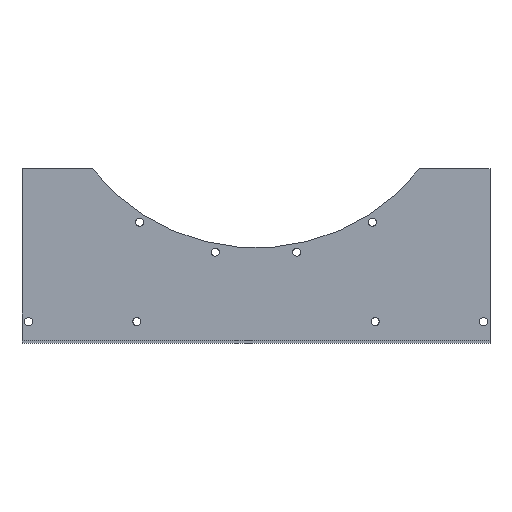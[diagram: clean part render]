
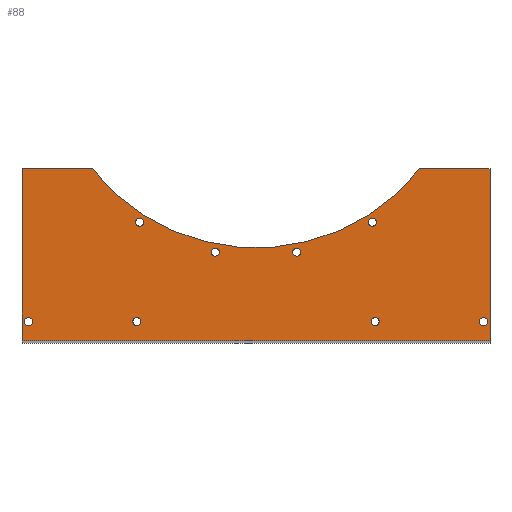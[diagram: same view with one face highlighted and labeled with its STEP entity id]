
A CAD part, top view. The second image highlights one B-rep face of the part: STEP entity #88.
In plain terms, the highlighted planar face has unit normal (0, 0, 1).
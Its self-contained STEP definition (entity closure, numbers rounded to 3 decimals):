
#88=ADVANCED_FACE('',(#184,#185,#186,#187,#188,#189,#190,#191,#192),#193,.T.);
#184=FACE_BOUND('',#285,.T.);
#185=FACE_BOUND('',#286,.T.);
#186=FACE_BOUND('',#287,.T.);
#187=FACE_BOUND('',#288,.T.);
#188=FACE_BOUND('',#289,.T.);
#189=FACE_BOUND('',#290,.T.);
#190=FACE_BOUND('',#291,.T.);
#191=FACE_BOUND('',#292,.T.);
#192=FACE_OUTER_BOUND('',#293,.T.);
#193=PLANE('',#294);
#285=EDGE_LOOP('',(#485,#486));
#286=EDGE_LOOP('',(#487,#488));
#287=EDGE_LOOP('',(#489,#490));
#288=EDGE_LOOP('',(#491,#492));
#289=EDGE_LOOP('',(#493,#494));
#290=EDGE_LOOP('',(#495,#496));
#291=EDGE_LOOP('',(#497,#498));
#292=EDGE_LOOP('',(#499,#500));
#293=EDGE_LOOP('',(#501,#502,#503,#504,#505,#506));
#294=AXIS2_PLACEMENT_3D('',#507,#508,#509);
#485=ORIENTED_EDGE('',*,*,#599,.T.);
#486=ORIENTED_EDGE('',*,*,#604,.T.);
#487=ORIENTED_EDGE('',*,*,#594,.T.);
#488=ORIENTED_EDGE('',*,*,#607,.T.);
#489=ORIENTED_EDGE('',*,*,#589,.T.);
#490=ORIENTED_EDGE('',*,*,#610,.T.);
#491=ORIENTED_EDGE('',*,*,#584,.T.);
#492=ORIENTED_EDGE('',*,*,#613,.T.);
#493=ORIENTED_EDGE('',*,*,#579,.T.);
#494=ORIENTED_EDGE('',*,*,#616,.T.);
#495=ORIENTED_EDGE('',*,*,#574,.T.);
#496=ORIENTED_EDGE('',*,*,#619,.T.);
#497=ORIENTED_EDGE('',*,*,#569,.T.);
#498=ORIENTED_EDGE('',*,*,#622,.T.);
#499=ORIENTED_EDGE('',*,*,#564,.T.);
#500=ORIENTED_EDGE('',*,*,#625,.T.);
#501=ORIENTED_EDGE('',*,*,#627,.T.);
#502=ORIENTED_EDGE('',*,*,#641,.F.);
#503=ORIENTED_EDGE('',*,*,#642,.F.);
#504=ORIENTED_EDGE('',*,*,#643,.F.);
#505=ORIENTED_EDGE('',*,*,#644,.F.);
#506=ORIENTED_EDGE('',*,*,#638,.F.);
#507=CARTESIAN_POINT('',(0.0,4.0,-26.0));
#508=DIRECTION('',(0.0,0.0,1.0));
#509=DIRECTION('',(1.0,0.0,0.0));
#564=EDGE_CURVE('',#664,#661,#665,.T.);
#569=EDGE_CURVE('',#673,#670,#674,.T.);
#574=EDGE_CURVE('',#682,#679,#683,.T.);
#579=EDGE_CURVE('',#691,#688,#692,.T.);
#584=EDGE_CURVE('',#700,#697,#701,.T.);
#589=EDGE_CURVE('',#709,#706,#710,.T.);
#594=EDGE_CURVE('',#718,#715,#719,.T.);
#599=EDGE_CURVE('',#727,#724,#728,.T.);
#604=EDGE_CURVE('',#724,#727,#734,.T.);
#607=EDGE_CURVE('',#715,#718,#737,.T.);
#610=EDGE_CURVE('',#706,#709,#740,.T.);
#613=EDGE_CURVE('',#697,#700,#743,.T.);
#616=EDGE_CURVE('',#688,#691,#746,.T.);
#619=EDGE_CURVE('',#679,#682,#749,.T.);
#622=EDGE_CURVE('',#670,#673,#752,.T.);
#625=EDGE_CURVE('',#661,#664,#755,.T.);
#627=EDGE_CURVE('',#757,#758,#759,.T.);
#638=EDGE_CURVE('',#757,#776,#777,.T.);
#641=EDGE_CURVE('',#780,#758,#781,.T.);
#642=EDGE_CURVE('',#782,#780,#783,.T.);
#643=EDGE_CURVE('',#784,#782,#785,.T.);
#644=EDGE_CURVE('',#776,#784,#786,.T.);
#661=VERTEX_POINT('',#807);
#664=VERTEX_POINT('',#811);
#665=CIRCLE('',#812,7.5);
#670=VERTEX_POINT('',#818);
#673=VERTEX_POINT('',#822);
#674=CIRCLE('',#823,7.5);
#679=VERTEX_POINT('',#829);
#682=VERTEX_POINT('',#833);
#683=CIRCLE('',#834,7.5);
#688=VERTEX_POINT('',#840);
#691=VERTEX_POINT('',#844);
#692=CIRCLE('',#845,7.5);
#697=VERTEX_POINT('',#851);
#700=VERTEX_POINT('',#855);
#701=CIRCLE('',#856,7.5);
#706=VERTEX_POINT('',#862);
#709=VERTEX_POINT('',#866);
#710=CIRCLE('',#867,7.5);
#715=VERTEX_POINT('',#873);
#718=VERTEX_POINT('',#877);
#719=CIRCLE('',#878,7.5);
#724=VERTEX_POINT('',#884);
#727=VERTEX_POINT('',#888);
#728=CIRCLE('',#889,7.5);
#734=CIRCLE('',#896,7.5);
#737=CIRCLE('',#899,7.5);
#740=CIRCLE('',#902,7.5);
#743=CIRCLE('',#905,7.5);
#746=CIRCLE('',#908,7.5);
#749=CIRCLE('',#911,7.5);
#752=CIRCLE('',#914,7.5);
#755=CIRCLE('',#917,7.5);
#757=VERTEX_POINT('',#919);
#758=VERTEX_POINT('',#920);
#759=CIRCLE('',#921,386.0);
#776=VERTEX_POINT('',#945);
#777=LINE('',#946,#947);
#780=VERTEX_POINT('',#951);
#781=LINE('',#952,#953);
#782=VERTEX_POINT('',#954);
#783=LINE('',#955,#956);
#784=VERTEX_POINT('',#957);
#785=LINE('',#958,#959);
#786=LINE('',#960,#961);
#807=CARTESIAN_POINT('',(-412.5,-121.0,-26.0));
#811=CARTESIAN_POINT('',(-427.5,-121.0,-26.0));
#812=AXIS2_PLACEMENT_3D('',#991,#992,#993);
#818=CARTESIAN_POINT('',(427.5,-121.0,-26.0));
#822=CARTESIAN_POINT('',(412.5,-121.0,-26.0));
#823=AXIS2_PLACEMENT_3D('',#999,#1000,#1001);
#829=CARTESIAN_POINT('',(-212.5,-121.0,-26.0));
#833=CARTESIAN_POINT('',(-227.5,-121.0,-26.0));
#834=AXIS2_PLACEMENT_3D('',#1007,#1008,#1009);
#840=CARTESIAN_POINT('',(227.5,-121.0,-26.0));
#844=CARTESIAN_POINT('',(212.5,-121.0,-26.0));
#845=AXIS2_PLACEMENT_3D('',#1015,#1016,#1017);
#851=CARTESIAN_POINT('',(82.507,8.508,-26.0));
#855=CARTESIAN_POINT('',(67.773,5.697,-26.0));
#856=AXIS2_PLACEMENT_3D('',#1023,#1024,#1025);
#862=CARTESIAN_POINT('',(-67.773,5.697,-26.0));
#866=CARTESIAN_POINT('',(-82.507,8.508,-26.0));
#867=AXIS2_PLACEMENT_3D('',#1031,#1032,#1033);
#873=CARTESIAN_POINT('',(-208.534,58.406,-26.0));
#877=CARTESIAN_POINT('',(-221.199,66.443,-26.0));
#878=AXIS2_PLACEMENT_3D('',#1039,#1040,#1041);
#884=CARTESIAN_POINT('',(221.199,66.443,-26.0));
#888=CARTESIAN_POINT('',(208.534,58.406,-26.0));
#889=AXIS2_PLACEMENT_3D('',#1047,#1048,#1049);
#896=AXIS2_PLACEMENT_3D('',#1057,#1058,#1059);
#899=AXIS2_PLACEMENT_3D('',#1063,#1064,#1065);
#902=AXIS2_PLACEMENT_3D('',#1069,#1070,#1071);
#905=AXIS2_PLACEMENT_3D('',#1075,#1076,#1077);
#908=AXIS2_PLACEMENT_3D('',#1081,#1082,#1083);
#911=AXIS2_PLACEMENT_3D('',#1087,#1088,#1089);
#914=AXIS2_PLACEMENT_3D('',#1093,#1094,#1095);
#917=AXIS2_PLACEMENT_3D('',#1099,#1100,#1101);
#919=CARTESIAN_POINT('',(302.318,161.0,-26.0));
#920=CARTESIAN_POINT('',(-302.318,161.0,-26.0));
#921=AXIS2_PLACEMENT_3D('',#1102,#1103,#1104);
#945=CARTESIAN_POINT('',(432.0,161.0,-26.0));
#946=CARTESIAN_POINT('',(0.0,161.0,-26.0));
#947=VECTOR('',#1115,1.0);
#951=CARTESIAN_POINT('',(-432.0,161.0,-26.0));
#952=CARTESIAN_POINT('',(0.0,161.0,-26.0));
#953=VECTOR('',#1117,1.0);
#954=CARTESIAN_POINT('',(-432.0,-157.0,-26.0));
#955=CARTESIAN_POINT('',(-432.0,2.0,-26.0));
#956=VECTOR('',#1118,1.0);
#957=CARTESIAN_POINT('',(432.0,-157.0,-26.0));
#958=CARTESIAN_POINT('',(0.0,-157.0,-26.0));
#959=VECTOR('',#1119,1.0);
#960=CARTESIAN_POINT('',(432.0,2.0,-26.0));
#961=VECTOR('',#1120,1.0);
#991=CARTESIAN_POINT('',(-420.0,-121.0,-26.0));
#992=DIRECTION('',(0.0,0.0,-1.0));
#993=DIRECTION('',(1.0,0.0,0.0));
#999=CARTESIAN_POINT('',(420.0,-121.0,-26.0));
#1000=DIRECTION('',(0.0,0.0,-1.0));
#1001=DIRECTION('',(1.0,0.0,0.0));
#1007=CARTESIAN_POINT('',(-220.0,-121.0,-26.0));
#1008=DIRECTION('',(0.0,0.0,-1.0));
#1009=DIRECTION('',(1.0,0.0,0.0));
#1015=CARTESIAN_POINT('',(220.0,-121.0,-26.0));
#1016=DIRECTION('',(0.0,0.0,-1.0));
#1017=DIRECTION('',(1.0,0.0,0.0));
#1023=CARTESIAN_POINT('',(75.14,7.103,-26.0));
#1024=DIRECTION('',(0.0,0.0,-1.0));
#1025=DIRECTION('',(0.982,0.187,0.0));
#1031=CARTESIAN_POINT('',(-75.14,7.103,-26.0));
#1032=DIRECTION('',(0.0,-0.0,-1.0));
#1033=DIRECTION('',(0.982,-0.187,0.0));
#1039=CARTESIAN_POINT('',(-214.867,62.425,-26.0));
#1040=DIRECTION('',(0.0,-0.0,-1.0));
#1041=DIRECTION('',(0.844,-0.536,0.0));
#1047=CARTESIAN_POINT('',(214.867,62.425,-26.0));
#1048=DIRECTION('',(0.0,0.0,-1.0));
#1049=DIRECTION('',(0.844,0.536,0.0));
#1057=CARTESIAN_POINT('',(214.867,62.425,-26.0));
#1058=DIRECTION('',(0.0,0.0,-1.0));
#1059=DIRECTION('',(0.844,0.536,0.0));
#1063=CARTESIAN_POINT('',(-214.867,62.425,-26.0));
#1064=DIRECTION('',(0.0,-0.0,-1.0));
#1065=DIRECTION('',(0.844,-0.536,0.0));
#1069=CARTESIAN_POINT('',(-75.14,7.103,-26.0));
#1070=DIRECTION('',(0.0,-0.0,-1.0));
#1071=DIRECTION('',(0.982,-0.187,0.0));
#1075=CARTESIAN_POINT('',(75.14,7.103,-26.0));
#1076=DIRECTION('',(0.0,0.0,-1.0));
#1077=DIRECTION('',(0.982,0.187,0.0));
#1081=CARTESIAN_POINT('',(220.0,-121.0,-26.0));
#1082=DIRECTION('',(0.0,0.0,-1.0));
#1083=DIRECTION('',(1.0,0.0,0.0));
#1087=CARTESIAN_POINT('',(-220.0,-121.0,-26.0));
#1088=DIRECTION('',(0.0,0.0,-1.0));
#1089=DIRECTION('',(1.0,0.0,0.0));
#1093=CARTESIAN_POINT('',(420.0,-121.0,-26.0));
#1094=DIRECTION('',(0.0,0.0,-1.0));
#1095=DIRECTION('',(1.0,0.0,0.0));
#1099=CARTESIAN_POINT('',(-420.0,-121.0,-26.0));
#1100=DIRECTION('',(0.0,0.0,-1.0));
#1101=DIRECTION('',(1.0,0.0,0.0));
#1102=CARTESIAN_POINT('',(0.0,401.0,-26.0));
#1103=DIRECTION('',(0.0,0.0,-1.0));
#1104=DIRECTION('',(1.0,0.0,0.0));
#1115=DIRECTION('',(1.0,0.0,-0.0));
#1117=DIRECTION('',(1.0,0.0,-0.0));
#1118=DIRECTION('',(0.0,1.0,0.0));
#1119=DIRECTION('',(-1.0,0.0,0.0));
#1120=DIRECTION('',(0.0,-1.0,0.0));
